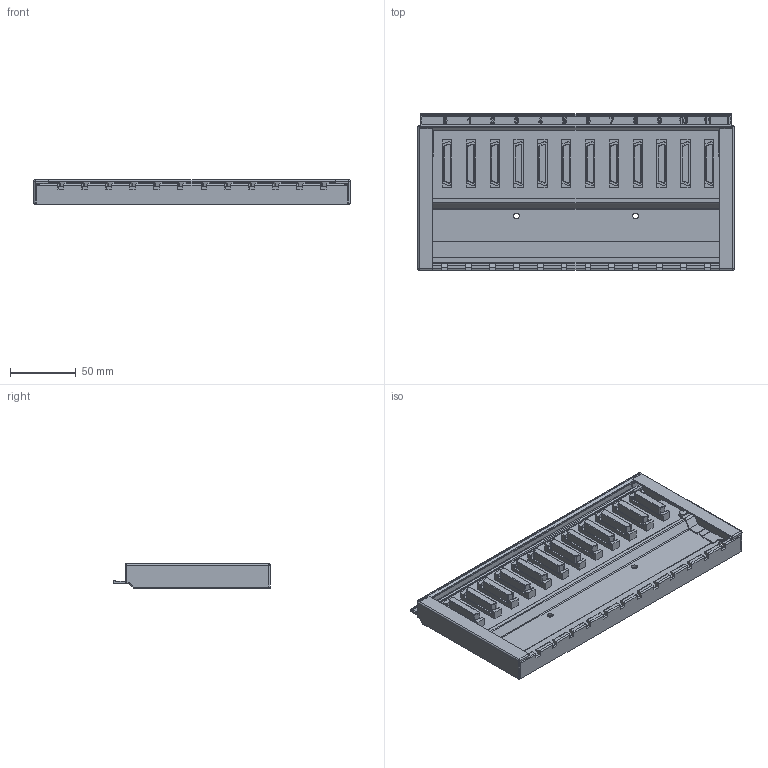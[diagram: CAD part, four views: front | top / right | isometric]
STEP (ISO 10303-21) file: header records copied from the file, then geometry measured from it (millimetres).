
FILE_DESCRIPTION (( 'STEP AP214' ), '1' );
FILE_NAME ('_6014-700.8_NX9001 ap204.STEP', '2013-06-10T12:43:01', ( 'ALTUS' ), ( '' ), 'SwSTEP 2.0', 'SolidWorks 2011', '' );
FILE_SCHEMA (( 'AUTOMOTIVE_DESIGN' ));
Length unit declared in the file: millimetre
Products named in the file (1): _6014-700.8_NX9001 ap204
Bounding box: 240.1 x 119.08 x 18.8 mm (x, y, z)
Volume: 135876.5 mm3; surface area: 123692.9 mm2
Topology: 1 solids, 1 shells, 1103 faces, 3331 edges, 2274 vertices
Faces by surface type: plane 575, cylinder 360, bspline 66, torus 50, cone 46, sphere 6
Entity records: 51898 total; most frequent: CARTESIAN_POINT 10480, ORIENTED_EDGE 6640, DIRECTION 5539, EDGE_CURVE 3320, VERTEX_POINT 2271, VECTOR 1851, LINE 1851, AXIS2_PLACEMENT_3D 1844
